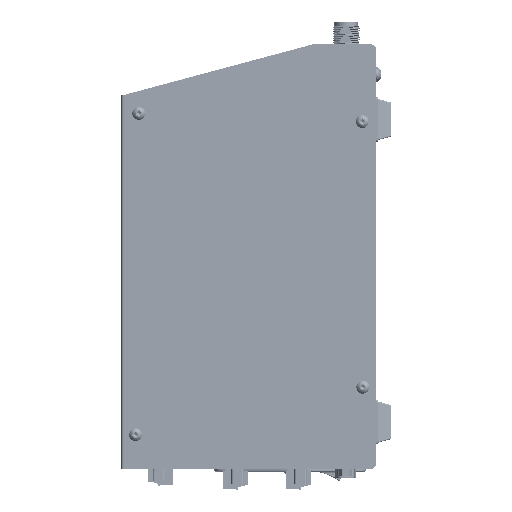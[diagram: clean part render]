
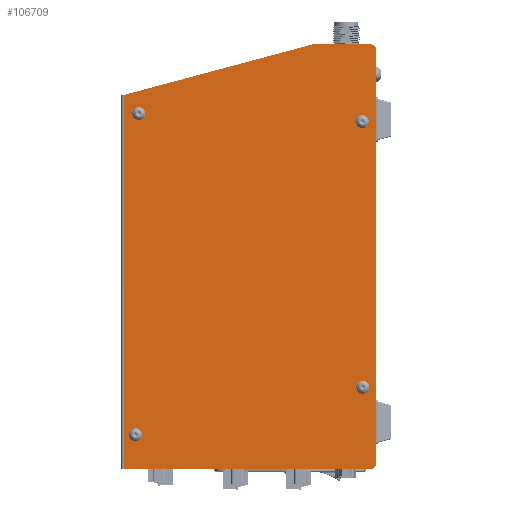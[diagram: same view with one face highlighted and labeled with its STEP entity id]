
A CAD part, left-side view. The second image highlights one B-rep face of the part: STEP entity #106709.
In plain terms, the highlighted planar face has unit normal (-1, 0, 0).
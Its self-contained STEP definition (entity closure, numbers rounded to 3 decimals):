
#3256 = DIRECTION ( 'NONE',  ( -1., 0., 0. ) ) ;
#4092 = EDGE_LOOP ( 'NONE', ( #87011 ) ) ;
#6292 = VERTEX_POINT ( 'NONE', #348970 ) ;
#8826 = ORIENTED_EDGE ( 'NONE', *, *, #370244, .F. ) ;
#8960 = LINE ( 'NONE', #359163, #28412 ) ;
#9471 = EDGE_LOOP ( 'NONE', ( #51819 ) ) ;
#13169 = CARTESIAN_POINT ( 'NONE',  ( -101.004, 105.728, 64.519 ) ) ;
#15374 = VERTEX_POINT ( 'NONE', #13169 ) ;
#21723 = EDGE_CURVE ( 'NONE', #190751, #34481, #239397, .T. ) ;
#28412 = VECTOR ( 'NONE', #45738, 1000. ) ;
#34481 = VERTEX_POINT ( 'NONE', #45909 ) ;
#39244 = EDGE_CURVE ( 'NONE', #77451, #6292, #169968, .T. ) ;
#45738 = DIRECTION ( 'NONE',  ( 0., -1., 0. ) ) ;
#45835 = CARTESIAN_POINT ( 'NONE',  ( -101.004, 6.25, 59.189 ) ) ;
#45909 = CARTESIAN_POINT ( 'NONE',  ( -101.004, 26.466, 93.7 ) ) ;
#49264 = FACE_BOUND ( 'NONE', #363287, .T. ) ;
#51819 = ORIENTED_EDGE ( 'NONE', *, *, #130380, .F. ) ;
#52275 = ORIENTED_EDGE ( 'NONE', *, *, #39244, .T. ) ;
#53519 = CARTESIAN_POINT ( 'NONE',  ( -101.004, 29.054, 93.359 ) ) ;
#53964 = DIRECTION ( 'NONE',  ( 0., 0., 1. ) ) ;
#66251 = VECTOR ( 'NONE', #373808, 1000. ) ;
#69387 = CARTESIAN_POINT ( 'NONE',  ( -101.004, 107.15, -78.4 ) ) ;
#70969 = AXIS2_PLACEMENT_3D ( 'NONE', #45835, #80502, #439789 ) ;
#71278 = CARTESIAN_POINT ( 'NONE',  ( -101.004, 3., 90.7 ) ) ;
#71865 = AXIS2_PLACEMENT_3D ( 'NONE', #90869, #81676, #401880 ) ;
#72877 = ORIENTED_EDGE ( 'NONE', *, *, #422309, .T. ) ;
#75497 = CARTESIAN_POINT ( 'NONE',  ( -101.004, 29.054, 93.359 ) ) ;
#77001 = DIRECTION ( 'NONE',  ( 0., 1., 0. ) ) ;
#77451 = VERTEX_POINT ( 'NONE', #254459 ) ;
#80502 = DIRECTION ( 'NONE',  ( -1., 0., 0. ) ) ;
#80599 = CARTESIAN_POINT ( 'NONE',  ( -101.004, 6.25, 60.889 ) ) ;
#81676 = DIRECTION ( 'NONE',  ( 1., 0., 0. ) ) ;
#84162 = CARTESIAN_POINT ( 'NONE',  ( -101.004, 112.404, -95.5 ) ) ;
#87011 = ORIENTED_EDGE ( 'NONE', *, *, #394966, .F. ) ;
#90869 = CARTESIAN_POINT ( 'NONE',  ( -101.004, 112.5, -95.5 ) ) ;
#92098 = AXIS2_PLACEMENT_3D ( 'NONE', #438991, #114320, #185656 ) ;
#92671 = EDGE_LOOP ( 'NONE', ( #202405, #52275, #200359, #189070, #270385, #72877, #185227, #370942 ) ) ;
#99158 = DIRECTION ( 'NONE',  ( -1., 0., 0. ) ) ;
#103231 = DIRECTION ( 'NONE',  ( 0., 0., 1. ) ) ;
#104651 = EDGE_CURVE ( 'NONE', #190838, #77451, #319434, .T. ) ;
#105809 = DIRECTION ( 'NONE',  ( -1., 0., 0. ) ) ;
#106709 = ADVANCED_FACE ( 'NONE', ( #49264, #194447, #157674, #265875, #228983 ), #226732, .F. ) ;
#110313 = DIRECTION ( 'NONE',  ( 0., 0., 1. ) ) ;
#114320 = DIRECTION ( 'NONE',  ( -1., 0., 0. ) ) ;
#116976 = EDGE_CURVE ( 'NONE', #206419, #190838, #8960, .T. ) ;
#117227 = DIRECTION ( 'NONE',  ( 0., 0., 1. ) ) ;
#130380 = EDGE_CURVE ( 'NONE', #140685, #140685, #254863, .T. ) ;
#135511 = CARTESIAN_POINT ( 'NONE',  ( -101.004, 0., -95.5 ) ) ;
#140685 = VERTEX_POINT ( 'NONE', #80599 ) ;
#143355 = CIRCLE ( 'NONE', #92098, 10. ) ;
#155267 = ORIENTED_EDGE ( 'NONE', *, *, #173671, .F. ) ;
#157674 = FACE_BOUND ( 'NONE', #253571, .T. ) ;
#167981 = CARTESIAN_POINT ( 'NONE',  ( -101.004, -3., 93.7 ) ) ;
#169968 = LINE ( 'NONE', #135511, #212997 ) ;
#173671 = EDGE_CURVE ( 'NONE', #15374, #15374, #454393, .T. ) ;
#174768 = AXIS2_PLACEMENT_3D ( 'NONE', #406592, #404304, #53964 ) ;
#185227 = ORIENTED_EDGE ( 'NONE', *, *, #245952, .F. ) ;
#185656 = DIRECTION ( 'NONE',  ( 0., 0., -1. ) ) ;
#189070 = ORIENTED_EDGE ( 'NONE', *, *, #21723, .T. ) ;
#190751 = VERTEX_POINT ( 'NONE', #366889 ) ;
#190838 = VERTEX_POINT ( 'NONE', #402674 ) ;
#194447 = FACE_BOUND ( 'NONE', #9471, .T. ) ;
#199824 = AXIS2_PLACEMENT_3D ( 'NONE', #285385, #105809, #110313 ) ;
#200359 = ORIENTED_EDGE ( 'NONE', *, *, #255791, .T. ) ;
#202405 = ORIENTED_EDGE ( 'NONE', *, *, #104651, .T. ) ;
#205695 = VERTEX_POINT ( 'NONE', #261298 ) ;
#206419 = VERTEX_POINT ( 'NONE', #84162 ) ;
#212997 = VECTOR ( 'NONE', #103231, 1000. ) ;
#215204 = CARTESIAN_POINT ( 'NONE',  ( -101.004, 3., -92.5 ) ) ;
#224038 = CARTESIAN_POINT ( 'NONE',  ( -101.004, 6.25, -57.09 ) ) ;
#226732 = PLANE ( 'NONE',  #71865 ) ;
#228983 = FACE_OUTER_BOUND ( 'NONE', #92671, .T. ) ;
#231265 = AXIS2_PLACEMENT_3D ( 'NONE', #215204, #3256, #77001 ) ;
#238114 = AXIS2_PLACEMENT_3D ( 'NONE', #370020, #264133, #404680 ) ;
#239397 = LINE ( 'NONE', #167981, #244063 ) ;
#239625 = DIRECTION ( 'NONE',  ( 0., 1., 0. ) ) ;
#244063 = VECTOR ( 'NONE', #453605, 1000. ) ;
#245952 = EDGE_CURVE ( 'NONE', #206419, #205695, #331358, .T. ) ;
#250975 = AXIS2_PLACEMENT_3D ( 'NONE', #71278, #99158, #239625 ) ;
#253571 = EDGE_LOOP ( 'NONE', ( #155267 ) ) ;
#254459 = CARTESIAN_POINT ( 'NONE',  ( -101.004, 0., -92.5 ) ) ;
#254863 = CIRCLE ( 'NONE', #70969, 1.7 ) ;
#255791 = EDGE_CURVE ( 'NONE', #6292, #190751, #404581, .T. ) ;
#258632 = VERTEX_POINT ( 'NONE', #224038 ) ;
#261298 = CARTESIAN_POINT ( 'NONE',  ( -101.004, 112.404, 71.026 ) ) ;
#264133 = DIRECTION ( 'NONE',  ( -1., 0., 0. ) ) ;
#265875 = FACE_BOUND ( 'NONE', #4092, .T. ) ;
#270385 = ORIENTED_EDGE ( 'NONE', *, *, #330633, .T. ) ;
#285385 = CARTESIAN_POINT ( 'NONE',  ( -101.004, 6.25, -58.79 ) ) ;
#294561 = CARTESIAN_POINT ( 'NONE',  ( -101.004, 112.404, -95.5 ) ) ;
#304708 = LINE ( 'NONE', #53519, #66251 ) ;
#319026 = CIRCLE ( 'NONE', #238114, 1.7 ) ;
#319434 = CIRCLE ( 'NONE', #231265, 3. ) ;
#330633 = EDGE_CURVE ( 'NONE', #34481, #344765, #143355, .T. ) ;
#331358 = LINE ( 'NONE', #294561, #395403 ) ;
#344765 = VERTEX_POINT ( 'NONE', #75497 ) ;
#348970 = CARTESIAN_POINT ( 'NONE',  ( -101.004, 0., 90.7 ) ) ;
#359163 = CARTESIAN_POINT ( 'NONE',  ( -101.004, 112.5, -95.5 ) ) ;
#363287 = EDGE_LOOP ( 'NONE', ( #8826 ) ) ;
#366889 = CARTESIAN_POINT ( 'NONE',  ( -101.004, 3., 93.7 ) ) ;
#370020 = CARTESIAN_POINT ( 'NONE',  ( -101.004, 107.15, -80.1 ) ) ;
#370244 = EDGE_CURVE ( 'NONE', #258632, #258632, #449819, .T. ) ;
#370942 = ORIENTED_EDGE ( 'NONE', *, *, #116976, .T. ) ;
#373808 = DIRECTION ( 'NONE',  ( 0., 0.966, -0.259 ) ) ;
#394966 = EDGE_CURVE ( 'NONE', #454228, #454228, #319026, .T. ) ;
#395403 = VECTOR ( 'NONE', #117227, 1000. ) ;
#401880 = DIRECTION ( 'NONE',  ( 0., 0., -1. ) ) ;
#402674 = CARTESIAN_POINT ( 'NONE',  ( -101.004, 3., -95.5 ) ) ;
#404304 = DIRECTION ( 'NONE',  ( -1., 0., 0. ) ) ;
#404581 = CIRCLE ( 'NONE', #250975, 3. ) ;
#404680 = DIRECTION ( 'NONE',  ( 0., 0., 1. ) ) ;
#406592 = CARTESIAN_POINT ( 'NONE',  ( -101.004, 105.728, 62.819 ) ) ;
#422309 = EDGE_CURVE ( 'NONE', #344765, #205695, #304708, .T. ) ;
#438991 = CARTESIAN_POINT ( 'NONE',  ( -101.004, 26.466, 83.7 ) ) ;
#439789 = DIRECTION ( 'NONE',  ( 0., 0., 1. ) ) ;
#449819 = CIRCLE ( 'NONE', #199824, 1.7 ) ;
#453605 = DIRECTION ( 'NONE',  ( 0., 1., 0. ) ) ;
#454228 = VERTEX_POINT ( 'NONE', #69387 ) ;
#454393 = CIRCLE ( 'NONE', #174768, 1.7 ) ;
